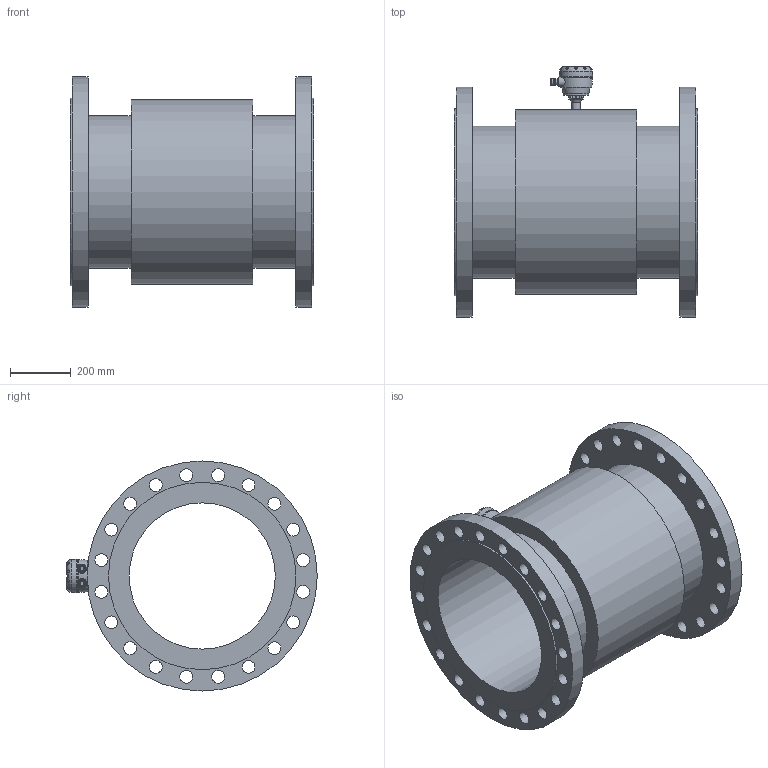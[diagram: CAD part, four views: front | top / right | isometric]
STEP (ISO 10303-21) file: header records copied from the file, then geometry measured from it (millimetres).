
FILE_DESCRIPTION (( 'STEP AP203' ), '1' );
FILE_NAME ('KROHNE_OPTIFLUX_2-4000W_DIN2635_DN500_PN40.STEP', '2011-04-26T11:26:53', ( '' ), ( '' ), 'SwSTEP 2.0', 'SolidWorks 2010', '' );
FILE_SCHEMA (( 'CONFIG_CONTROL_DESIGN' ));
Length unit declared in the file: millimetre
Products named in the file (1): KROHNE_OPTIFLUX_2-4000W_DIN2635_DN500_PN40
Bounding box: 800 x 821.99 x 755 mm (x, y, z)
Volume: 74616313.1 mm3; surface area: 4171707.9 mm2
Topology: 14 solids, 14 shells, 367 faces, 931 edges, 614 vertices
Faces by surface type: plane 158, cylinder 119, bspline 53, torus 18, sphere 13, cone 6
Full cylindrical faces by diameter (mm): 4 x4, 6.6 x8, 13 x2, 20 x2, 23.5 x4, 29 x1, 30 x2, 42 x40, 84 x2, 109 x1, 480 x1, 500 x2, 606 x1, 615 x2, 755 x2
Entity records: 14795 total; most frequent: CARTESIAN_POINT 6616, DIRECTION 1557, ORIENTED_EDGE 1554, EDGE_CURVE 777, EDGE_LOOP 598, AXIS2_PLACEMENT_3D 597, VERTEX_POINT 561, FACE_OUTER_BOUND 458
